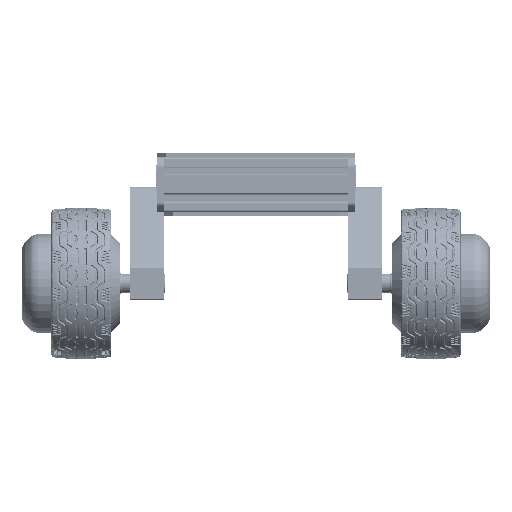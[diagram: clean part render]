
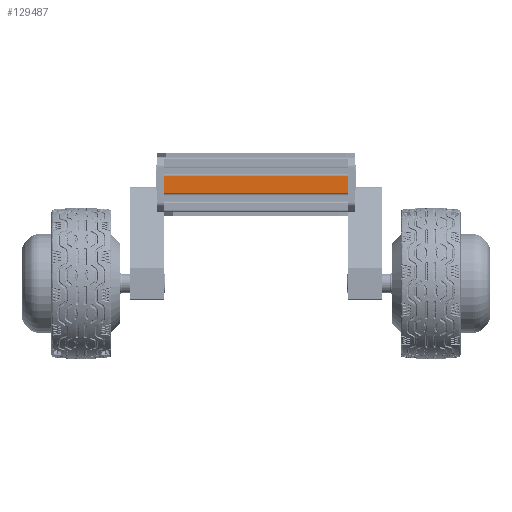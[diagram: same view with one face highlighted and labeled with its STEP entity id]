
A CAD part, front view. The second image highlights one B-rep face of the part: STEP entity #129487.
In plain terms, the highlighted planar face has unit normal (0, -1, 0).
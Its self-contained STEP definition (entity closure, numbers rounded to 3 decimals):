
#21774=FACE_OUTER_BOUND('',#30937,.T.);
#30937=EDGE_LOOP('',(#88044,#88045,#88046,#88047));
#45852=LINE('',#176811,#49504);
#45916=LINE('',#176973,#49568);
#45917=LINE('',#176975,#49569);
#45918=LINE('',#176976,#49570);
#49504=VECTOR('',#151379,1000.);
#49568=VECTOR('',#151497,1000.);
#49569=VECTOR('',#151498,1000.);
#49570=VECTOR('',#151499,1000.);
#53035=VERTEX_POINT('',#176808);
#53036=VERTEX_POINT('',#176810);
#53107=VERTEX_POINT('',#176972);
#53108=VERTEX_POINT('',#176974);
#65752=EDGE_CURVE('',#53035,#53036,#45852,.T.);
#65833=EDGE_CURVE('',#53035,#53107,#45916,.T.);
#65834=EDGE_CURVE('',#53108,#53107,#45917,.T.);
#65835=EDGE_CURVE('',#53036,#53108,#45918,.T.);
#88044=ORIENTED_EDGE('',*,*,#65833,.T.);
#88045=ORIENTED_EDGE('',*,*,#65834,.F.);
#88046=ORIENTED_EDGE('',*,*,#65835,.F.);
#88047=ORIENTED_EDGE('',*,*,#65752,.F.);
#128266=PLANE('',#139091);
#129487=ADVANCED_FACE('',(#21774),#128266,.T.);
#139091=AXIS2_PLACEMENT_3D('',#176971,#151495,#151496);
#151379=DIRECTION('',(-1.,0.,0.));
#151495=DIRECTION('center_axis',(0.,-1.,0.));
#151496=DIRECTION('ref_axis',(0.,0.,-1.));
#151497=DIRECTION('',(0.,0.,1.));
#151498=DIRECTION('',(1.,0.,0.));
#151499=DIRECTION('',(0.,0.,1.));
#176808=CARTESIAN_POINT('',(6.4,-10.,-134.));
#176810=CARTESIAN_POINT('',(-6.4,-10.,-134.));
#176811=CARTESIAN_POINT('',(-20.,-10.,-134.));
#176971=CARTESIAN_POINT('Origin',(-20.,-10.,-100.));
#176972=CARTESIAN_POINT('',(6.4,-10.,0.));
#176973=CARTESIAN_POINT('',(6.4,-10.,-100.));
#176974=CARTESIAN_POINT('',(-6.4,-10.,0.));
#176975=CARTESIAN_POINT('',(-20.,-10.,0.));
#176976=CARTESIAN_POINT('',(-6.4,-10.,-100.));
